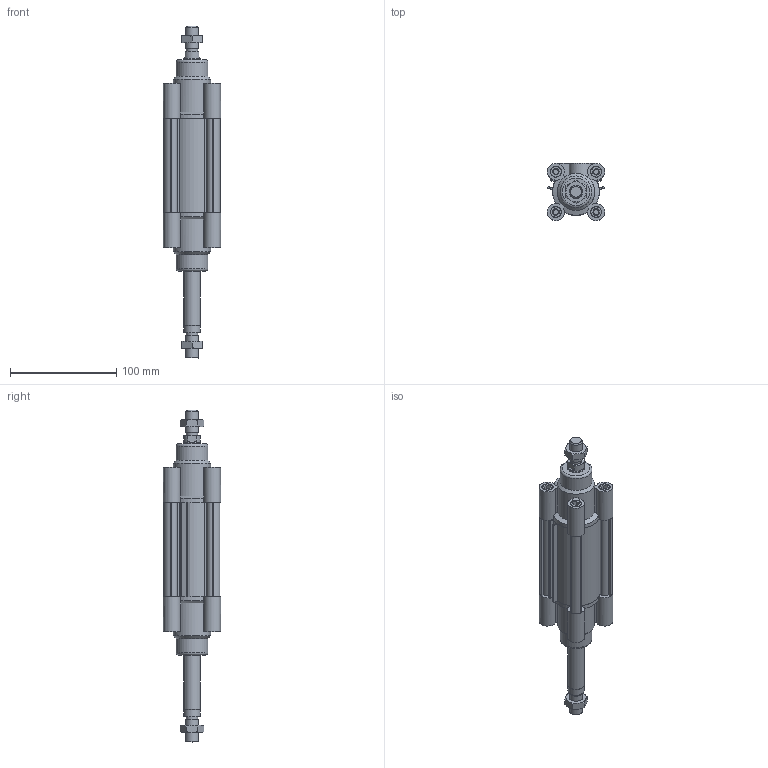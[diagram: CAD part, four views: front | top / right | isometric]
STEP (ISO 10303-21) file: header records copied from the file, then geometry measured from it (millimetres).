
FILE_DESCRIPTION((''),'2;1');
FILE_NAME('I:\Area Tecnica\Disegni\VARIE-3D\Componenti\ECOLIGHT\02\stp\139#_40_0050_02.iam.stp','2012-01-28T09:38:07',(''),(''),'Autodesk Inventor 2012','Autodesk Inventor 2012','');
FILE_SCHEMA(('AUTOMOTIVE_DESIGN { 1 0 10303 214 1 1 1 1 }'));
Length unit declared in the file: millimetre
Products named in the file (5): 139#_40_0050_02; CPL040_004-50; CPL040-001-01; CPL_40SP_0050; 1320_40_18F
Assembly tree (6 placements, depth 2):
  139#_40_0050_02
    CPL040_004-50
    CPL040-001-01  x2
    CPL_40SP_0050
    1320_40_18F  x2
Bounding box: 54 x 54 x 313 mm (x, y, z)
Volume: 299989.4 mm3; surface area: 111909.2 mm2
Topology: 6 solids, 6 shells, 351 faces, 860 edges, 564 vertices
Faces by surface type: plane 211, cylinder 98, cone 40, torus 2
Full cylindrical faces by diameter (mm): 5 x8, 5.5 x4, 8 x2, 10 x8, 10.5 x10, 10.8 x2, 11.6 x2, 12 x2, 15.5 x2, 16 x4, 30 x2, 35 x2, 40 x4
Entity records: 7104 total; most frequent: CARTESIAN_POINT 1295, DIRECTION 1162, ORIENTED_EDGE 1084, EDGE_CURVE 542, AXIS2_PLACEMENT_3D 413, VERTEX_POINT 380, VECTOR 336, LINE 336
